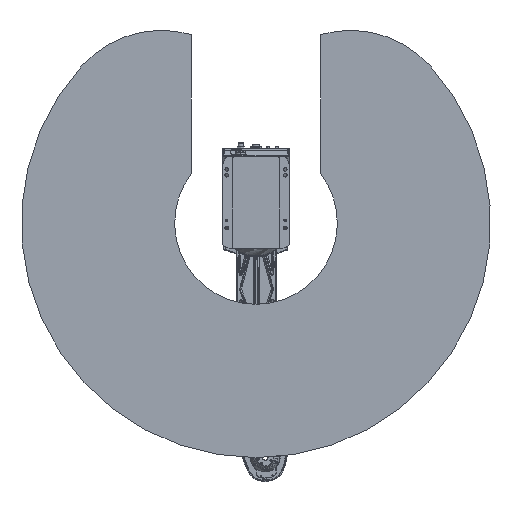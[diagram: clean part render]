
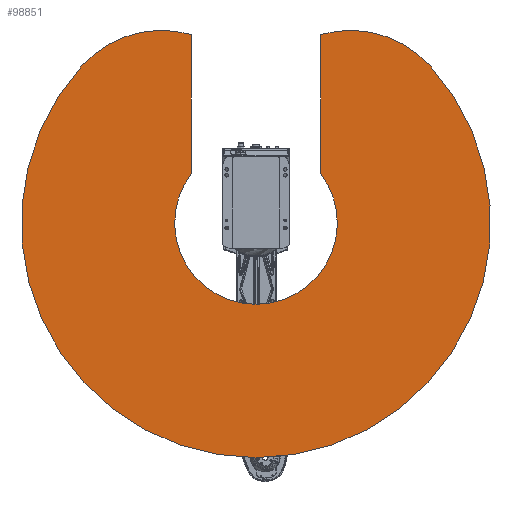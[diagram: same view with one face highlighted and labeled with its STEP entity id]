
A CAD part, front view. The second image highlights one B-rep face of the part: STEP entity #98851.
In plain terms, the highlighted planar face has unit normal (0, -1, 0).
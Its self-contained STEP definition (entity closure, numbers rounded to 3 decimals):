
#4850 = CARTESIAN_POINT ( 'NONE',  ( 0., 0., 0. ) ) ;
#5611 = CARTESIAN_POINT ( 'NONE',  ( 0., 0., 0. ) ) ;
#6190 = EDGE_CURVE ( 'NONE', #89804, #350177, #97831, .T. ) ;
#9488 = CARTESIAN_POINT ( 'NONE',  ( 0., 0., 0. ) ) ;
#16751 = AXIS2_PLACEMENT_3D ( 'NONE', #115670, #318919, #144751 ) ;
#27981 = AXIS2_PLACEMENT_3D ( 'NONE', #9488, #212556, #38573 ) ;
#33997 = DIRECTION ( 'NONE',  ( 0., 0., -1. ) ) ;
#34734 = DIRECTION ( 'NONE',  ( 0., 0., -1. ) ) ;
#38573 = DIRECTION ( 'NONE',  ( 0., 0., -1. ) ) ;
#44673 = CARTESIAN_POINT ( 'NONE',  ( 0., 0., 0. ) ) ;
#45591 = AXIS2_PLACEMENT_3D ( 'NONE', #4850, #207921, #33997 ) ;
#47738 = ORIENTED_EDGE ( 'NONE', *, *, #126012, .T. ) ;
#49782 = CARTESIAN_POINT ( 'NONE',  ( -165., 0., 126.645 ) ) ;
#61147 = AXIS2_PLACEMENT_3D ( 'NONE', #5611, #208681, #34734 ) ;
#73921 = DIRECTION ( 'NONE',  ( 0., 1., 0. ) ) ;
#89804 = VERTEX_POINT ( 'NONE', #359120 ) ;
#89842 = DIRECTION ( 'NONE',  ( 0., 1., 0. ) ) ;
#97831 = LINE ( 'NONE', #280869, #320609 ) ;
#98851 = ADVANCED_FACE ( 'NONE', ( #325599 ), #218642, .F. ) ;
#108663 = ORIENTED_EDGE ( 'NONE', *, *, #369740, .F. ) ;
#109719 = LINE ( 'NONE', #110169, #332349 ) ;
#110169 = CARTESIAN_POINT ( 'NONE',  ( -165., 0., 0. ) ) ;
#115575 = CIRCLE ( 'NONE', #16751, 600. ) ;
#115670 = CARTESIAN_POINT ( 'NONE',  ( 0., 0., 0. ) ) ;
#117486 = CARTESIAN_POINT ( 'NONE',  ( 241.522, 0., 217.467 ) ) ;
#123366 = VERTEX_POINT ( 'NONE', #49782 ) ;
#125234 = CARTESIAN_POINT ( 'NONE',  ( -165., 0., 481.606 ) ) ;
#126012 = EDGE_CURVE ( 'NONE', #350177, #131644, #248260, .T. ) ;
#131644 = VERTEX_POINT ( 'NONE', #177405 ) ;
#134739 = CIRCLE ( 'NONE', #45591, 208. ) ;
#139357 = DIRECTION ( 'NONE',  ( 0., 0., -1. ) ) ;
#144751 = DIRECTION ( 'NONE',  ( 0., 0., -1. ) ) ;
#145947 = CARTESIAN_POINT ( 'NONE',  ( -445.887, 0., 401.478 ) ) ;
#146585 = DIRECTION ( 'NONE',  ( 0., 0., -1. ) ) ;
#153586 = ORIENTED_EDGE ( 'NONE', *, *, #281736, .F. ) ;
#158108 = ORIENTED_EDGE ( 'NONE', *, *, #6190, .T. ) ;
#167369 = VERTEX_POINT ( 'NONE', #145947 ) ;
#177405 = CARTESIAN_POINT ( 'NONE',  ( 0., 0., -208. ) ) ;
#193643 = AXIS2_PLACEMENT_3D ( 'NONE', #263779, #89842, #293047 ) ;
#202487 = EDGE_LOOP ( 'NONE', ( #158108, #47738, #253891, #334110, #247495, #108663, #305781, #153586 ) ) ;
#203484 = CIRCLE ( 'NONE', #193643, 275. ) ;
#207921 = DIRECTION ( 'NONE',  ( 0., 1., 0. ) ) ;
#208681 = DIRECTION ( 'NONE',  ( 0., 1., 0. ) ) ;
#212556 = DIRECTION ( 'NONE',  ( 0., 1., 0. ) ) ;
#218163 = VERTEX_POINT ( 'NONE', #355756 ) ;
#218642 = PLANE ( 'NONE',  #257537 ) ;
#237701 = EDGE_CURVE ( 'NONE', #246399, #218163, #355810, .T. ) ;
#246399 = VERTEX_POINT ( 'NONE', #357821 ) ;
#246474 = AXIS2_PLACEMENT_3D ( 'NONE', #117486, #320742, #146585 ) ;
#247495 = ORIENTED_EDGE ( 'NONE', *, *, #312277, .F. ) ;
#248260 = CIRCLE ( 'NONE', #27981, 208. ) ;
#253891 = ORIENTED_EDGE ( 'NONE', *, *, #328240, .T. ) ;
#257537 = AXIS2_PLACEMENT_3D ( 'NONE', #44673, #73921, #277128 ) ;
#263779 = CARTESIAN_POINT ( 'NONE',  ( -241.522, 0., 217.467 ) ) ;
#277128 = DIRECTION ( 'NONE',  ( 0., 0., 1. ) ) ;
#280869 = CARTESIAN_POINT ( 'NONE',  ( 165., 0., 0. ) ) ;
#281736 = EDGE_CURVE ( 'NONE', #89804, #246399, #359320, .T. ) ;
#293047 = DIRECTION ( 'NONE',  ( 0., 0., -1. ) ) ;
#305781 = ORIENTED_EDGE ( 'NONE', *, *, #237701, .F. ) ;
#310084 = DIRECTION ( 'NONE',  ( 0., 0., -1. ) ) ;
#312277 = EDGE_CURVE ( 'NONE', #167369, #343660, #203484, .T. ) ;
#318919 = DIRECTION ( 'NONE',  ( 0., 1., 0. ) ) ;
#320609 = VECTOR ( 'NONE', #310084, 1000. ) ;
#320742 = DIRECTION ( 'NONE',  ( 0., 1., 0. ) ) ;
#323733 = CARTESIAN_POINT ( 'NONE',  ( 165., 0., 126.645 ) ) ;
#325599 = FACE_OUTER_BOUND ( 'NONE', #202487, .T. ) ;
#328240 = EDGE_CURVE ( 'NONE', #131644, #123366, #134739, .T. ) ;
#332349 = VECTOR ( 'NONE', #139357, 1000. ) ;
#334110 = ORIENTED_EDGE ( 'NONE', *, *, #367226, .F. ) ;
#343660 = VERTEX_POINT ( 'NONE', #125234 ) ;
#350177 = VERTEX_POINT ( 'NONE', #323733 ) ;
#355756 = CARTESIAN_POINT ( 'NONE',  ( 0., 0., -600. ) ) ;
#355810 = CIRCLE ( 'NONE', #61147, 600. ) ;
#357821 = CARTESIAN_POINT ( 'NONE',  ( 445.887, 0., 401.478 ) ) ;
#359120 = CARTESIAN_POINT ( 'NONE',  ( 165., 0., 481.606 ) ) ;
#359320 = CIRCLE ( 'NONE', #246474, 275. ) ;
#367226 = EDGE_CURVE ( 'NONE', #343660, #123366, #109719, .T. ) ;
#369740 = EDGE_CURVE ( 'NONE', #218163, #167369, #115575, .T. ) ;
